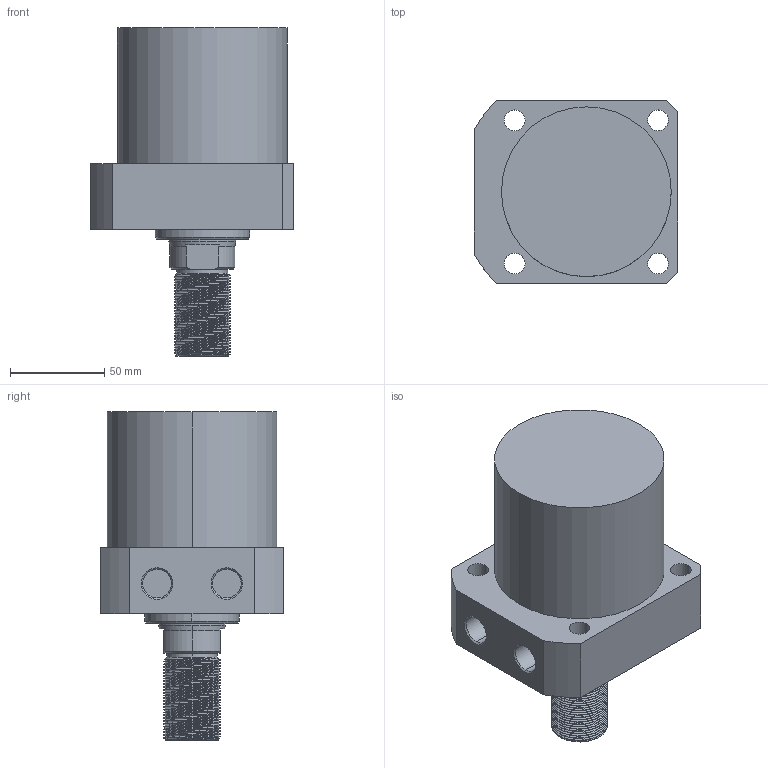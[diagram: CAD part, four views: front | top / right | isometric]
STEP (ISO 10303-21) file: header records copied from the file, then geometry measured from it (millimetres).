
FILE_DESCRIPTION (( 'STEP AP214' ), '1' );
FILE_NAME ('CLLR-090CT-050.STEP', '2020-01-09T06:35:32', ( 'Windows' ), ( 'Microsoft' ), 'SwSTEP 2.0', 'SolidWorks 2015', '' );
FILE_SCHEMA (( 'AUTOMOTIVE_DESIGN' ));
Length unit declared in the file: millimetre
Products named in the file (1): CLLR-090CT-050
Bounding box: 108 x 97 x 174 mm (x, y, z)
Volume: 849746.7 mm3; surface area: 70635.7 mm2
Topology: 1 solids, 1 shells, 124 faces, 331 edges, 217 vertices
Faces by surface type: cylinder 85, plane 20, cone 17, bspline 2
Entity records: 7043 total; most frequent: CARTESIAN_POINT 4210, ORIENTED_EDGE 662, DIRECTION 520, EDGE_CURVE 331, VERTEX_POINT 217, AXIS2_PLACEMENT_3D 199, EDGE_LOOP 140, FACE_OUTER_BOUND 124
